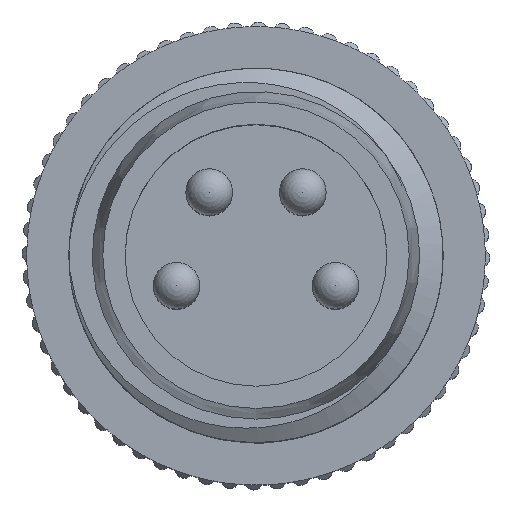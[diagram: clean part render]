
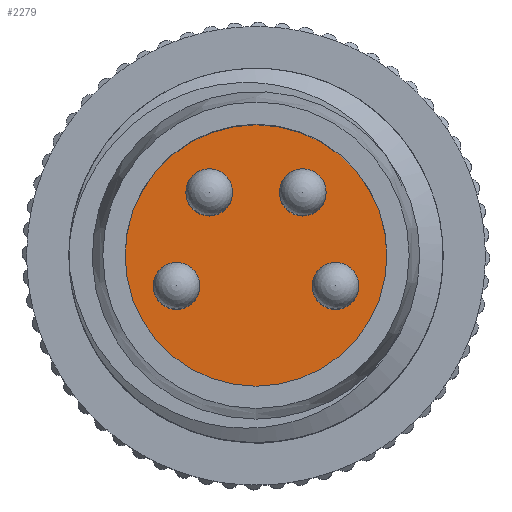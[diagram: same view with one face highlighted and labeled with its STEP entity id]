
A CAD part, top view. The second image highlights one B-rep face of the part: STEP entity #2279.
In plain terms, the highlighted planar face has unit normal (0, 0, 1).
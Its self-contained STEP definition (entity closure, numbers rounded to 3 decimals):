
#2279=ADVANCED_FACE('',(#2431,#2432,#2433,#2434,#2435),#2391,.T.);
#2391=PLANE('',#7273);
#2431=FACE_BOUND('',#2886,.T.);
#2432=FACE_BOUND('',#2887,.T.);
#2433=FACE_BOUND('',#2888,.T.);
#2434=FACE_BOUND('',#2889,.T.);
#2435=FACE_BOUND('',#2890,.T.);
#2886=EDGE_LOOP('',(#4752));
#2887=EDGE_LOOP('',(#4753));
#2888=EDGE_LOOP('',(#4754));
#2889=EDGE_LOOP('',(#4755));
#2890=EDGE_LOOP('',(#4756));
#4752=ORIENTED_EDGE('',*,*,#6247,.F.);
#4753=ORIENTED_EDGE('',*,*,#6248,.F.);
#4754=ORIENTED_EDGE('',*,*,#6249,.F.);
#4755=ORIENTED_EDGE('',*,*,#6250,.F.);
#4756=ORIENTED_EDGE('',*,*,#6251,.F.);
#5313=VERTEX_POINT('',#17396);
#5314=VERTEX_POINT('',#17398);
#5315=VERTEX_POINT('',#17400);
#5316=VERTEX_POINT('',#17402);
#5317=VERTEX_POINT('',#17404);
#6247=EDGE_CURVE('',#5313,#5313,#6562,.T.);
#6248=EDGE_CURVE('',#5314,#5314,#6563,.T.);
#6249=EDGE_CURVE('',#5315,#5315,#6564,.T.);
#6250=EDGE_CURVE('',#5316,#5316,#6565,.T.);
#6251=EDGE_CURVE('',#5317,#5317,#6566,.T.);
#6562=CIRCLE('',#7268,2.8);
#6563=CIRCLE('',#7269,0.5);
#6564=CIRCLE('',#7270,0.5);
#6565=CIRCLE('',#7271,0.5);
#6566=CIRCLE('',#7272,0.5);
#7268=AXIS2_PLACEMENT_3D('',#17395,#9063,#9064);
#7269=AXIS2_PLACEMENT_3D('',#17397,#9065,#9066);
#7270=AXIS2_PLACEMENT_3D('',#17399,#9067,#9068);
#7271=AXIS2_PLACEMENT_3D('',#17401,#9069,#9070);
#7272=AXIS2_PLACEMENT_3D('',#17403,#9071,#9072);
#7273=AXIS2_PLACEMENT_3D('',#17405,#9073,#9074);
#9063=DIRECTION('',(0.,0.,-1.));
#9064=DIRECTION('',(0.,-1.,0.));
#9065=DIRECTION('',(0.,0.,1.));
#9066=DIRECTION('',(0.,1.,0.));
#9067=DIRECTION('',(0.,0.,1.));
#9068=DIRECTION('',(0.,1.,0.));
#9069=DIRECTION('',(0.,0.,1.));
#9070=DIRECTION('',(0.,1.,0.));
#9071=DIRECTION('',(0.,0.,1.));
#9072=DIRECTION('',(0.,1.,0.));
#9073=DIRECTION('',(0.,0.,1.));
#9074=DIRECTION('',(0.,1.,0.));
#17395=CARTESIAN_POINT('',(0.,0.,11.8));
#17396=CARTESIAN_POINT('',(0.,-2.8,11.8));
#17397=CARTESIAN_POINT('',(-1.,1.35,11.8));
#17398=CARTESIAN_POINT('',(-1.,1.85,11.8));
#17399=CARTESIAN_POINT('',(1.,1.35,11.8));
#17400=CARTESIAN_POINT('',(1.,1.85,11.8));
#17401=CARTESIAN_POINT('',(1.7,-0.65,11.8));
#17402=CARTESIAN_POINT('',(1.7,-0.15,11.8));
#17403=CARTESIAN_POINT('',(-1.7,-0.65,11.8));
#17404=CARTESIAN_POINT('',(-1.7,-0.15,11.8));
#17405=CARTESIAN_POINT('',(0.,0.,11.8));
